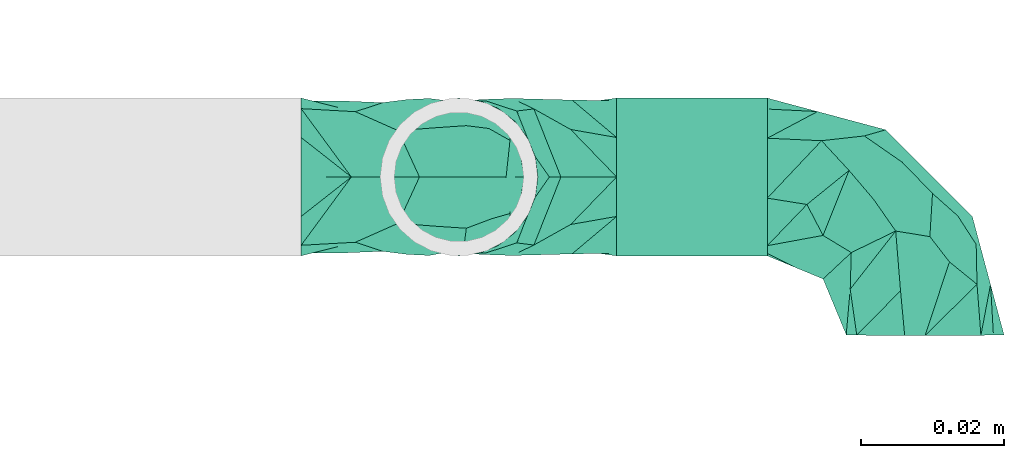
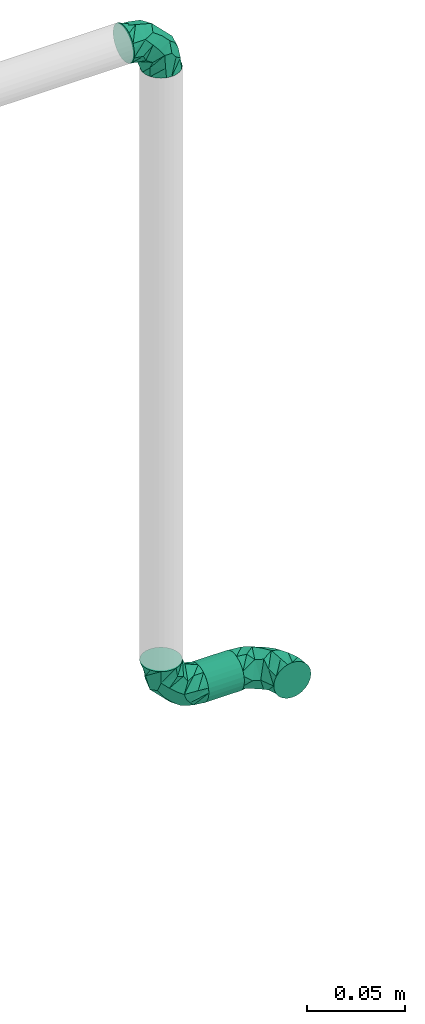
# One storey, part 47 of 78: 3 flow fittings, 1 flow segment.
"""IFC2X3 building model written with IfcOpenShell, lengths in millimetres."""

import ifcopenshell
import ifcopenshell.guid

model = None  # the IFC model being written
_history = None  # IfcOwnerHistory: only IFC2X3 demands one
_inside = {}  # id of a spatial element -> (the spatial element, [elements in it])
_under = {}  # id of a project, library or spatial element -> (it, [spatial elements below it])
_declared = {}  # id of a project -> (the project, [libraries it declares])
_typed = {}  # id of a type object -> (the type object, [elements of that type])
_made_of = {}  # id of a material, layer set ... -> (it, [elements and type objects made of it])


def new_model(schema):
    """Start an empty IFC model of exactly this schema.

    Asked for "IFC4X3", IfcOpenShell would pick the latest addendum, in which some entities
    have other attributes; the version numbers below select the first issue.
    IFC2X3 requires an IfcOwnerHistory on every rooted entity: one is made here for all.
    """
    global model, _history
    if schema == "IFC4X3":
        model = ifcopenshell.file(schema_version=(4, 3, 0, 0))
    else:
        model = ifcopenshell.file(schema=schema)
    _inside.clear()
    _under.clear()
    _declared.clear()
    _typed.clear()
    _made_of.clear()
    _history = None
    if model.schema == "IFC2X3":
        org = make("IfcOrganization", Name="unknown")
        user = make(
            "IfcPersonAndOrganization",
            ThePerson=make("IfcPerson", FamilyName="unknown"),
            TheOrganization=org,
        )
        app = make(
            "IfcApplication",
            ApplicationDeveloper=org,
            Version="unknown",
            ApplicationFullName="unknown",
            ApplicationIdentifier="unknown",
        )
        _history = make(
            "IfcOwnerHistory",
            OwningUser=user,
            OwningApplication=app,
            ChangeAction="ADDED",
            CreationDate=0,
        )
    return model


def make(cls, **values):
    """One entity of the class cls with the attributes given. An attribute that is None is left unset."""
    return model.create_entity(
        cls, **{name: value for name, value in values.items() if value is not None}
    )


def entity(cls, *values):
    """Any entity or typed value of the class cls, its attributes in the order of the schema. None: left unset."""
    e = model.create_entity(cls)
    for i, value in enumerate(values):
        if value is not None:
            e[i] = value
    return e


def rooted(cls, **values):
    """An entity with a GlobalId (a new one), such as an element, a storey or a relation."""
    return make(cls, GlobalId=ifcopenshell.guid.new(), OwnerHistory=_history, **values)


def si_unit(unit_type, name, prefix=None):
    """IfcSIUnit, for example si_unit("LENGTHUNIT", "METRE", prefix="MILLI")."""
    return make("IfcSIUnit", UnitType=unit_type, Prefix=prefix, Name=name)


def converted_unit(unit_type, name, factor, base, dimensions=None, offset=None):
    """IfcConversionBasedUnit, such as the inch: factor (a typed value) times the base unit."""
    return make(
        "IfcConversionBasedUnit"
        if offset is None
        else "IfcConversionBasedUnitWithOffset",
        ConversionOffset=offset,
        Dimensions=None
        if dimensions is None
        else entity("IfcDimensionalExponents", *dimensions),
        UnitType=unit_type,
        Name=name,
        ConversionFactor=make(
            "IfcMeasureWithUnit", ValueComponent=factor, UnitComponent=base
        ),
    )


def derived_unit(unit_type, elements):
    """IfcDerivedUnit: a product of units, each with its exponent."""
    return make(
        "IfcDerivedUnit",
        Elements=[
            make("IfcDerivedUnitElement", Unit=unit, Exponent=power)
            for unit, power in elements
        ],
        UnitType=unit_type,
    )


def assignment(units):
    """IfcUnitAssignment: the units of a project."""
    return None if units is None else make("IfcUnitAssignment", Units=units)


def point(xyz):
    """IfcCartesianPoint."""
    return None if xyz is None else make("IfcCartesianPoint", Coordinates=xyz)


def direction(xyz):
    """IfcDirection."""
    return None if xyz is None else make("IfcDirection", DirectionRatios=xyz)


def frame(location, z_axis=None, x_axis=None):
    """IfcAxis2Placement3D, a coordinate frame: its origin and axes. An axis left out is left unset."""
    return make(
        "IfcAxis2Placement3D",
        Location=point(location),
        Axis=direction(z_axis),
        RefDirection=direction(x_axis),
    )


def frame_2d(location, x_axis=None):
    """IfcAxis2Placement2D, a coordinate frame in the plane: its origin and x axis."""
    return make(
        "IfcAxis2Placement2D", Location=point(location), RefDirection=direction(x_axis)
    )


def origin_with_axes():
    """The frame at (0, 0, 0) with the z axis (0, 0, 1) and the x axis (1, 0, 0) written out."""
    return frame((0.0, 0.0, 0.0), z_axis=(0.0, 0.0, 1.0), x_axis=(1.0, 0.0, 0.0))


def origin_2d_with_axis():
    """The frame at (0, 0) in the plane with the x axis (1, 0) written out."""
    return frame_2d((0.0, 0.0), x_axis=(1.0, 0.0))


def place(relative_to, where):
    """IfcLocalPlacement: puts the frame where relative to a parent placement (None: the world)."""
    return make(
        "IfcLocalPlacement", PlacementRelTo=relative_to, RelativePlacement=where
    )


def context(
    kind, dimensions, precision=None, world=None, true_north=None, identifier=None
):
    """IfcGeometricRepresentationContext, for example the 3D "Model" context."""
    return make(
        "IfcGeometricRepresentationContext",
        ContextIdentifier=identifier,
        ContextType=kind,
        CoordinateSpaceDimension=dimensions,
        Precision=precision,
        WorldCoordinateSystem=world,
        TrueNorth=true_north,
    )


def subcontext(parent, identifier, kind, view, scale=None):
    """IfcGeometricRepresentationSubContext, for example "Body" below "Model"."""
    return make(
        "IfcGeometricRepresentationSubContext",
        ContextIdentifier=identifier,
        ContextType=kind,
        ParentContext=parent,
        TargetScale=scale,
        TargetView=view,
    )


def project(units=None, contexts=None):
    """IfcProject with its units and contexts."""
    return rooted(
        "IfcProject",
        Name="project",
        RepresentationContexts=contexts,
        UnitsInContext=assignment(units),
    )


def spatial(cls, under=None, at=None, **own):
    """A site, building, storey or space (cls), placed at a placement, below another one or the project."""
    s = rooted(cls, ObjectPlacement=at, **own)
    if under is not None:
        _under.setdefault(under.id(), (under, []))[1].append(s)
    return s


def profile(cls, at=None, kind="AREA", **sizes):
    """A parametric profile (cls). Its sizes go by their IFC names, for example OverallWidth=200.0."""
    return make(cls, ProfileType=kind, Position=at, **sizes)


def hollow_circle(**sizes):
    """IfcCircleHollowProfileDef."""
    return profile("IfcCircleHollowProfileDef", **sizes)


def extrude(swept, where, along, depth):
    """IfcExtrudedAreaSolid: the profile swept, set in the frame where, extruded along a direction by depth."""
    return make(
        "IfcExtrudedAreaSolid",
        SweptArea=swept,
        Position=where,
        ExtrudedDirection=direction(along),
        Depth=depth,
    )


def faces_of(points, faces, orient=None, outer=None):
    """IfcFace entities. A face is a list of loops; a loop is a list of indices into points, from 0.

    orient and outer hold one flag for each loop. By default every Orientation is true, the
    first loop of a face is its IfcFaceOuterBound and the others are IfcFaceBound.
    """
    made = []
    for i, loops in enumerate(faces):
        bounds = []
        for j, loop in enumerate(loops):
            is_outer = j == 0 if outer is None else outer[i][j]
            bounds.append(
                make(
                    "IfcFaceOuterBound" if is_outer else "IfcFaceBound",
                    Bound=make("IfcPolyLoop", Polygon=[points[k] for k in loop]),
                    Orientation=True if orient is None else orient[i][j],
                )
            )
        made.append(make("IfcFace", Bounds=bounds))
    return made


def open_shell(faces, orient=None, outer=None):
    """The faces of one IfcOpenShell. surface_model builds it on its shared points."""
    return ("IfcOpenShell", faces, orient, outer)


def surface_model(cls, points, shells):
    """IfcFaceBasedSurfaceModel or IfcShellBasedSurfaceModel (cls): surfaces that need not close."""
    shared = [point(p) for p in points]
    made = [make(c, CfsFaces=faces_of(shared, fs, o, b)) for c, fs, o, b in shells]
    if cls == "IfcFaceBasedSurfaceModel":
        return make(cls, FbsmFaces=made)
    return make(cls, SbsmBoundary=made)


def shape(context_of_items, identifier, shape_type, items):
    """IfcShapeRepresentation: the items that make up one representation, for example the "Body"."""
    return make(
        "IfcShapeRepresentation",
        ContextOfItems=context_of_items,
        RepresentationIdentifier=identifier,
        RepresentationType=shape_type,
        Items=items,
    )


def source(mapping_origin, context_of_items, identifier, shape_type, items):
    """IfcRepresentationMap: a shape defined once, which mapped items show again and again."""
    return make(
        "IfcRepresentationMap",
        MappingOrigin=mapping_origin,
        MappedRepresentation=shape(context_of_items, identifier, shape_type, items),
    )


def transform(
    local_origin,
    x_axis=None,
    y_axis=None,
    z_axis=None,
    scale=None,
    scale2=None,
    scale3=None,
    uniform=True,
):
    """IfcCartesianTransformationOperator3D, or its non-uniform kind. x_axis, y_axis, z_axis: its Axis1, 2, 3."""
    if uniform:
        return make(
            "IfcCartesianTransformationOperator3D",
            Axis1=direction(x_axis),
            Axis2=direction(y_axis),
            LocalOrigin=point(local_origin),
            Scale=scale,
            Axis3=direction(z_axis),
        )
    return make(
        "IfcCartesianTransformationOperator3DnonUniform",
        Axis1=direction(x_axis),
        Axis2=direction(y_axis),
        LocalOrigin=point(local_origin),
        Scale=scale,
        Axis3=direction(z_axis),
        Scale2=scale2,
        Scale3=scale3,
    )


def mapped(mapping_source, mapping_target):
    """IfcMappedItem: shows the shape of a source again, moved by a transform."""
    return make(
        "IfcMappedItem", MappingSource=mapping_source, MappingTarget=mapping_target
    )


def made_of(thing, what):
    """Note that an element or type object is made of a material, layer set ...; save() writes the relation."""
    if what is not None:
        _made_of.setdefault(what.id(), (what, []))[1].append(thing)
    return thing


def type_object(cls, material=None, **own):
    """A type object (cls), such as IfcWallType, which elements share."""
    return made_of(rooted(cls, **own), material)


def element(
    cls,
    number,
    at=None,
    inside=None,
    cuts=None,
    type_object=None,
    material=None,
    context=None,
    identifier="Body",
    shape_type=None,
    held_by="IfcProductDefinitionShape",
    body=None,
    shapes=None,
    **own,
):
    """One element of the class cls, such as IfcWall. Its Tag is "e" and its number.

    at: its placement. inside: the storey or other place that contains it. cuts: it is an
    opening in that element (IfcRelVoidsElement). A single representation is given by context,
    identifier, shape_type and body (its items); several are given by shapes. held_by: the class
    of the entity that holds the representations. save() writes the other relations.
    """
    e = rooted(cls, Tag="e%d" % number, ObjectPlacement=at, **own)
    if body is not None:
        shapes = [shape(context, identifier, shape_type, body)]
    if shapes is not None:
        e.Representation = make(held_by, Representations=shapes)
    if inside is not None:
        _inside.setdefault(inside.id(), (inside, []))[1].append(e)
    if cuts is not None:
        rooted(
            "IfcRelVoidsElement", RelatingBuildingElement=cuts, RelatedOpeningElement=e
        )
    if type_object is not None:
        _typed.setdefault(type_object.id(), (type_object, []))[1].append(e)
    return made_of(e, material)


def aggregate(whole, parts):
    """IfcRelAggregates: a whole, such as a stair, and the parts it consists of."""
    return rooted("IfcRelAggregates", RelatingObject=whole, RelatedObjects=parts)


def save(model, path):
    """Write the relations noted so far, then the file.

    IfcRelAggregates (storeys below a building ...), IfcRelContainedInSpatialStructure (elements
    in a storey), IfcRelDefinesByType, IfcRelAssociatesMaterial and IfcRelDeclares: one each for
    every whole, place, type object, material and project.
    """
    for whole, parts in _under.values():
        aggregate(whole, parts)
    for where, things in _inside.values():
        rooted(
            "IfcRelContainedInSpatialStructure",
            RelatedElements=things,
            RelatingStructure=where,
        )
    for kind, things in _typed.values():
        rooted("IfcRelDefinesByType", RelatedObjects=things, RelatingType=kind)
    for what, things in _made_of.values():
        rooted("IfcRelAssociatesMaterial", RelatedObjects=things, RelatingMaterial=what)
    for by, libraries in _declared.values():
        rooted("IfcRelDeclares", RelatingContext=by, RelatedDefinitions=libraries)
    model.write(path)


model = new_model("IFC2X3")

# Units and contexts
model_context = context("Model", 3, precision=0.01, world=frame((0.0, 4.29681676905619e-09, 0.0)), true_north=direction((4.01073788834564e-13, 1.0)))
plan_context = context("Plan", 3, precision=0.01, world=frame((0.0, 4.29681676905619e-09, 0.0)), true_north=direction((4.01073788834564e-13, 1.0)))
body_context = subcontext(model_context, "Body", "Model", "MODEL_VIEW")
ifc_project = project(units=[converted_unit("PLANEANGLEUNIT", "DEGREE", entity("IfcPositiveLengthMeasure", 0.0174532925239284), si_unit("PLANEANGLEUNIT", "RADIAN"), dimensions=[0, 0, 0, 0, 0, 0, 0]), si_unit("AREAUNIT", "SQUARE_METRE"), si_unit("LENGTHUNIT", "METRE", prefix="MILLI"), si_unit("MASSUNIT", "GRAM", prefix="KILO"), si_unit("POWERUNIT", "WATT"), si_unit("PRESSUREUNIT", "PASCAL"), si_unit("FORCEUNIT", "NEWTON", prefix="KILO"), si_unit("ELECTRICVOLTAGEUNIT", "VOLT"), si_unit("ELECTRICCURRENTUNIT", "AMPERE"), si_unit("THERMODYNAMICTEMPERATUREUNIT", "DEGREE_CELSIUS"), si_unit("TIMEUNIT", "SECOND"), si_unit("VOLUMEUNIT", "CUBIC_METRE"), derived_unit("LINEARVELOCITYUNIT", [(si_unit("LENGTHUNIT", "METRE"), 1), (si_unit("TIMEUNIT", "SECOND"), -1)]), derived_unit("VOLUMETRICFLOWRATEUNIT", [(si_unit("VOLUMEUNIT", "CUBIC_METRE"), 1), (si_unit("TIMEUNIT", "SECOND"), -1)]), derived_unit("THERMALTRANSMITTANCEUNIT", [(si_unit("POWERUNIT", "WATT"), 1), (si_unit("THERMODYNAMICTEMPERATUREUNIT", "KELVIN"), -1), (si_unit("AREAUNIT", "SQUARE_METRE"), -1)]), derived_unit("SOUNDPRESSUREUNIT", [(si_unit("PRESSUREUNIT", "PASCAL"), 1)])], contexts=[model_context, plan_context])

# Site, building, storey
site_placement = place(None, frame((0.0, -4.29681676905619e-09, 0.0), z_axis=(0.0, 0.0, 1.0), x_axis=(1.0, 0.0, 0.0)))
site = spatial("IfcSite", under=ifc_project, at=site_placement, Name="ENGM", CompositionType="ELEMENT")
building_placement = place(site_placement, frame((0.0, 4.29681676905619e-09, 0.0), z_axis=(0.0, 0.0, 1.0), x_axis=(1.0, 0.0, 0.0)))
building = spatial("IfcBuilding", under=site, at=building_placement, Name="TH", CompositionType="ELEMENT")
storey_placement = place(building_placement, frame((0.0, 0.0, 205200.0), z_axis=(0.0, 0.0, 1.0), x_axis=(1.0, 0.0, 0.0)))
storey = spatial("IfcBuildingStorey", under=building, at=storey_placement, Name="Nivå D + 1,2 m", CompositionType="ELEMENT", Elevation=205200.0)

# Flow fittings
pipe_fitting_type = type_object("IfcPipeFittingType", Name="magi_pipe_cu_elbow_short_001", PredefinedType="BEND")
shared_shape_1 = source(origin_with_axes(), body_context, "Body", "SurfaceModel", [
    surface_model("IfcShellBasedSurfaceModel", [(-22.0, 0.0, -11.0), (-22.0, -2.84701, -10.62518), (-22.0, 2.84701, -10.62518), (-22.0, 5.5, -9.52628), (-22.0, 7.77817, -7.77817), (-22.0, 10.62518, -2.84701), (-22.0, 9.52628, -5.5), (-22.0, -7.77817, -7.77817), (-22.0, -9.52628, -5.5), (-22.0, -5.5, -9.52628), (-22.0, -10.62518, -2.84701), (-22.0, -9.52628, 5.5), (-22.0, -11.0, 0.0), (-22.0, 10.62518, 2.84701), (-22.0, 9.52628, 5.5), (-22.0, 7.77817, 7.77817), (-22.0, 2.84701, 10.62518), (-22.0, 5.5, 9.52628), (-22.0, -7.77817, 7.77817), (-22.0, -10.62518, 2.84701), (-22.0, -2.84701, 10.62518), (-22.0, 0.0, 11.0), (-22.0, -5.5, 9.52628), (-22.0, 11.0, 0.0), (-2.84701, 22.0, -10.62518), (2.84701, 22.0, -10.62518), (0.0, 22.0, -11.0), (-7.77817, 22.0, -7.77817), (-5.5, 22.0, -9.52628), (-9.52628, 22.0, -5.5), (-10.62518, 22.0, -2.84701), (5.5, 22.0, -9.52628), (9.52628, 22.0, -5.5), (7.77817, 22.0, -7.77817), (10.62518, 22.0, -2.84701), (9.52628, 22.0, 5.5), (11.0, 22.0, 0.0), (-10.62518, 22.0, 2.84701), (-7.77817, 22.0, 7.77817), (-9.52628, 22.0, 5.5), (-5.5, 22.0, 9.52628), (-2.84701, 22.0, 10.62518), (7.77817, 22.0, 7.77817), (10.62518, 22.0, 2.84701), (5.5, 22.0, 9.52628), (0.0, 22.0, 11.0), (2.84701, 22.0, 10.62518), (-11.0, 22.0, 0.0), (-18.49859, -10.0618, 0.0), (-10.24859, -7.85122, 0.0), (-9.34901, -7.11844, 5.09685), (-14.89307, -7.23891, 7.45305), (5.78852, 8.4802, 6.46058), (2.12041, 3.18539, 6.87037), (3.55913, 2.48029, 0.0), (1.01335, 10.61047, 10.36705), (-14.99718, -9.1236, 0.0), (5.14392, 14.4409, 9.10203), (-11.75269, -3.39299, 9.59306), (7.85122, 10.24859, 0.0), (9.1236, 14.99718, 0.0), (-8.06006, 14.23023, 9.19276), (-3.72868, 16.47919, 10.60733), (-15.76443, 3.42828, 10.73288), (-8.21542, -0.66336, 10.02562), (-12.61091, 18.11091, 0.0), (-14.22183, 14.22183, 0.0), (-5.37587, -4.55716, 5.82482), (6.57884, 5.5, 0.0), (-15.57958, 10.44534, 6.62476), (-10.44966, 10.29499, 9.49395), (10.0618, 18.49859, 0.0), (-7.4322, 4.10078, 10.94703), (-2.22445, -1.03187, 7.15282), (0.53942, -0.53942, 0.0), (-3.02405, 7.17381, 10.80133), (-18.11091, 12.61091, 0.0), (-2.48029, -3.55913, 0.0), (-5.5, -6.57884, 0.0), (-9.08269, -0.07613, -10.40197), (-2.22445, -1.03187, -7.15282), (-6.00435, -4.17546, -6.76221), (-8.06006, 14.23023, -9.19276), (-15.76443, 3.42828, -10.73288), (-11.75269, -3.39299, -9.59306), (-15.57958, 10.44534, -6.62476), (-7.4322, 4.10078, -10.94703), (-10.44966, 10.29499, -9.49395), (2.12041, 3.18539, -6.87037), (-3.02405, 7.17381, -10.80133), (-14.89307, -7.23891, -7.45305), (5.14392, 14.4409, -9.10203), (-3.72868, 16.47919, -10.60733), (1.01335, 10.61047, -10.36705), (5.78852, 8.4802, -6.46058), (-9.34901, -7.11844, -5.09685)], [open_shell([[[0, 1, 2]], [[3, 2, 4]], [[5, 6, 4]], [[4, 2, 1]], [[5, 4, 1]], [[7, 8, 9]], [[1, 9, 8]], [[8, 10, 1]], [[11, 1, 10]], [[12, 11, 10]], [[5, 1, 11]], [[11, 13, 5]], [[14, 13, 15]], [[16, 17, 15]], [[13, 16, 15]], [[16, 13, 11]], [[11, 18, 16]], [[11, 12, 19]], [[20, 21, 22]], [[16, 18, 22]], [[21, 16, 22]], [[23, 5, 13]], [[24, 25, 26]], [[27, 24, 28]], [[27, 29, 30]], [[25, 24, 27]], [[25, 27, 30]], [[31, 32, 33]], [[32, 31, 25]], [[25, 34, 32]], [[34, 25, 35]], [[34, 35, 36]], [[35, 25, 30]], [[30, 37, 35]], [[38, 37, 39]], [[38, 40, 41]], [[38, 41, 37]], [[35, 37, 41]], [[41, 42, 35]], [[43, 36, 35]], [[44, 45, 46]], [[44, 42, 41]], [[44, 41, 45]], [[37, 30, 47]], [[11, 19, 48]], [[49, 50, 51]], [[52, 53, 54]], [[52, 55, 53]], [[51, 18, 56]], [[18, 11, 56]], [[41, 57, 45]], [[21, 51, 58]], [[51, 20, 22]], [[57, 59, 60]], [[61, 55, 62]], [[63, 58, 64]], [[65, 66, 61]], [[51, 21, 20]], [[21, 58, 16]], [[67, 58, 50]], [[54, 68, 52]], [[63, 15, 17]], [[19, 12, 48]], [[23, 13, 69]], [[14, 15, 63]], [[62, 40, 38]], [[16, 58, 63]], [[14, 69, 13]], [[63, 17, 16]], [[59, 52, 68]], [[60, 42, 44]], [[57, 46, 45]], [[69, 70, 66]], [[52, 59, 57]], [[39, 62, 38]], [[60, 35, 42]], [[44, 57, 60]], [[44, 46, 57]], [[18, 51, 22]], [[43, 71, 36]], [[51, 56, 49]], [[70, 69, 72]], [[73, 74, 53]], [[75, 72, 73]], [[14, 63, 69]], [[47, 65, 37]], [[35, 71, 43]], [[55, 57, 62]], [[52, 57, 55]], [[41, 40, 62]], [[60, 71, 35]], [[37, 61, 39]], [[48, 56, 11]], [[61, 62, 39]], [[62, 57, 41]], [[69, 63, 72]], [[53, 75, 73]], [[69, 66, 76]], [[67, 64, 58]], [[75, 53, 55]], [[67, 77, 73]], [[55, 61, 75]], [[70, 75, 61]], [[50, 49, 78]], [[67, 50, 78]], [[51, 50, 58]], [[77, 74, 73]], [[73, 72, 64]], [[67, 78, 77]], [[73, 64, 67]], [[63, 64, 72]], [[37, 65, 61]], [[75, 70, 72]], [[23, 69, 76]], [[66, 70, 61]], [[53, 74, 54]], [[79, 80, 81]], [[65, 30, 82]], [[3, 4, 83]], [[2, 84, 0]], [[5, 23, 85]], [[8, 48, 10]], [[83, 6, 85]], [[85, 6, 5]], [[86, 85, 87]], [[83, 86, 79]], [[83, 84, 2]], [[48, 12, 10]], [[80, 77, 81]], [[88, 80, 89]], [[8, 7, 56]], [[9, 1, 90]], [[91, 31, 60]], [[7, 9, 90]], [[90, 1, 0]], [[84, 90, 0]], [[7, 90, 56]], [[29, 92, 82]], [[6, 83, 4]], [[85, 23, 76]], [[80, 88, 74]], [[82, 66, 65]], [[93, 82, 92]], [[29, 82, 30]], [[29, 27, 92]], [[27, 28, 92]], [[71, 60, 32]], [[91, 92, 24]], [[56, 48, 8]], [[34, 36, 71]], [[28, 24, 92]], [[94, 88, 93]], [[26, 91, 24]], [[31, 91, 25]], [[83, 2, 3]], [[94, 93, 91]], [[33, 60, 31]], [[89, 93, 88]], [[25, 91, 26]], [[71, 32, 34]], [[92, 91, 93]], [[59, 91, 60]], [[86, 83, 85]], [[95, 78, 49]], [[33, 32, 60]], [[66, 87, 85]], [[94, 59, 68]], [[89, 80, 86]], [[49, 56, 90]], [[94, 54, 88]], [[59, 94, 91]], [[95, 90, 84]], [[87, 89, 86]], [[82, 93, 89]], [[81, 78, 95]], [[90, 95, 49]], [[81, 95, 84]], [[79, 81, 84]], [[82, 87, 66]], [[83, 79, 84]], [[80, 79, 86]], [[77, 80, 74]], [[77, 78, 81]], [[47, 30, 65]], [[66, 85, 76]], [[89, 87, 82]], [[54, 94, 68]], [[54, 74, 88]]])]),
])
for number, where, z_axis, x_axis, name in (
    (1, (905170.85557, 482016.52017, 7655.08702000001), (0.0, 1.0, 0.0), (-1.0, 0.0, 0.0), "magi_pipe_cu_elbow_short_001"),
    (2, (905170.85557, 482016.52017, 8070.08702000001), (0.0, -1.0, 0.0), (0.0, 0.0, 1.0), "magi_pipe_cu_elbow_short_001"),
    (3, (905235.85557, 482016.52017, 7655.08702000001), (0.0, -0.00979999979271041, 0.999951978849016), (0.0, 0.999951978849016, 0.00979999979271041), "magi_pipe_cu_elbow_short_001"),
):
    element("IfcFlowFitting", number, at=place(storey_placement, frame(where, z_axis=z_axis, x_axis=x_axis)), inside=storey, type_object=pipe_fitting_type, Name=name, context=body_context, shape_type="MappedRepresentation", body=[
        mapped(shared_shape_1, transform((0.0, 0.0, 0.0), scale=1.0)),
    ])

# Flow segment
pipe_segment_type = type_object("IfcPipeSegmentType", Name="Kobberrør", PredefinedType="RIGIDSEGMENT")
shared_shape_2 = source(origin_with_axes(), body_context, "Body", "SweptSolid", [
    extrude(hollow_circle(Radius=11.0, WallThickness=2.0, at=origin_2d_with_axis()), frame((0.0, 0.0, 0.0), z_axis=(1.0, 0.0, 0.0), x_axis=(0.0, 1.0, 0.0)), (0.0, 0.0, 1.0), 21.0),
])
flow_segment_placement = place(storey_placement, frame((905213.85557, 482016.52017, 7655.08702000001), z_axis=(0.0, 0.0, 1.0), x_axis=(-1.0, 0.0, 0.0)))
element("IfcFlowSegment", 4, at=flow_segment_placement, inside=storey, type_object=pipe_segment_type, Name="Kobberrør", context=body_context, shape_type="MappedRepresentation", body=[
    mapped(shared_shape_2, transform((0.0, 0.0, 0.0), scale=1.0)),
])

save(model, "model.ifc")
